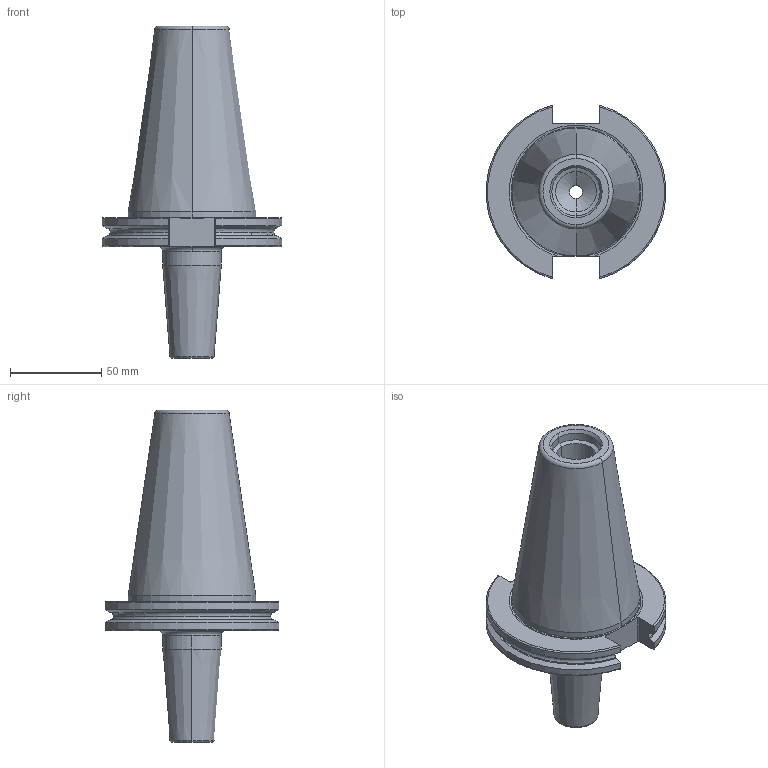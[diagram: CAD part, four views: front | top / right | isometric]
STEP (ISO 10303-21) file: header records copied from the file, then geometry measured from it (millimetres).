
FILE_DESCRIPTION (( 'STEP AP214' ), '1' );
FILE_NAME ('C6N3-0012.STEP', '2020-01-14T22:24:36', ( '' ), ( '' ), 'SwSTEP 2.0', 'SolidWorks 2020', '' );
FILE_SCHEMA (( 'AUTOMOTIVE_DESIGN' ));
Length unit declared in the file: inch
Products named in the file (1): C6N3-0012
Bounding box: 98.05 x 94.95 x 181.6 mm (x, y, z)
Volume: 353732.7 mm3; surface area: 51122.6 mm2
Topology: 1 solids, 1 shells, 93 faces, 236 edges, 145 vertices
Faces by surface type: cylinder 28, cone 25, torus 20, plane 20
Entity records: 4226 total; most frequent: CARTESIAN_POINT 739, DIRECTION 485, ORIENTED_EDGE 468, EDGE_CURVE 234, AXIS2_PLACEMENT_3D 197, VERTEX_POINT 145, CIRCLE 103, EDGE_LOOP 97
